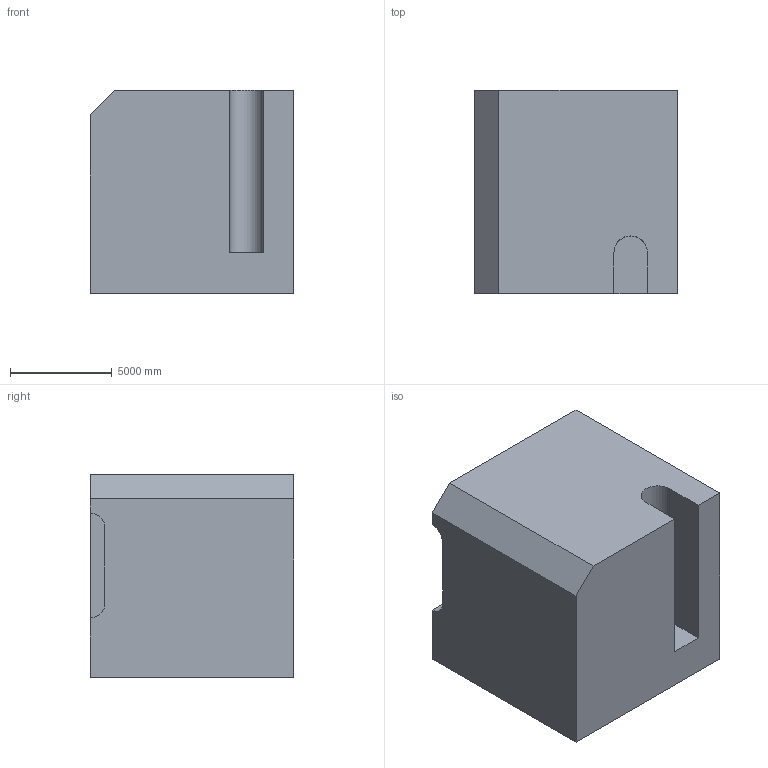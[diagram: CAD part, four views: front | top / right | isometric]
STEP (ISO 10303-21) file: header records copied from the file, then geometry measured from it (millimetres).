
FILE_DESCRIPTION (( 'STEP AP203' ), '1' );
FILE_NAME ('1393.STEP', '2022-08-18T14:12:50', ( 'user' ), ( '' ), 'SwSTEP 2.0', 'SolidWorks 2021', '' );
FILE_SCHEMA (( 'CONFIG_CONTROL_DESIGN' ));
Length unit declared in the file: centimetre
Products named in the file (1): 1393
Bounding box: 10000 x 10000 x 10000 mm (x, y, z)
Volume: 917073590553.9 mm3; surface area: 670614109 mm2
Topology: 1 solids, 1 shells, 22 faces, 57 edges, 38 vertices
Faces by surface type: plane 19, cylinder 3
Entity records: 744 total; most frequent: CARTESIAN_POINT 118, ORIENTED_EDGE 114, DIRECTION 109, EDGE_CURVE 57, VECTOR 51, LINE 51, VERTEX_POINT 38, AXIS2_PLACEMENT_3D 29
